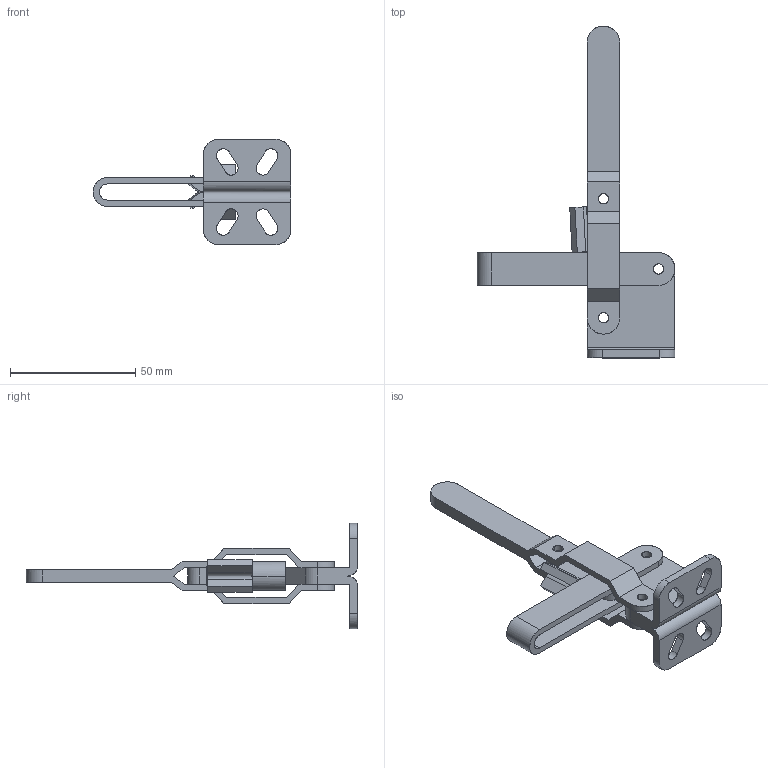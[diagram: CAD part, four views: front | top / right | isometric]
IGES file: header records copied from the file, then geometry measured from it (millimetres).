
Start section: Comment
Global section: file name: 12002b.igs; native system:  By Spatial Corp.; preprocessor: XPlus PS/IGES 3.0; author: Author; organization: Title; date: 20050216.165723; units: inch
Bounding box: 79 x 132.5 x 42 mm (x, y, z)
Surface area: 19362 mm2 (no closed solid volume)
Topology: 0 solids, 0 shells, 129 faces, 726 edges, 726 vertices
Faces by surface type: extrusion 66, revolution 63
